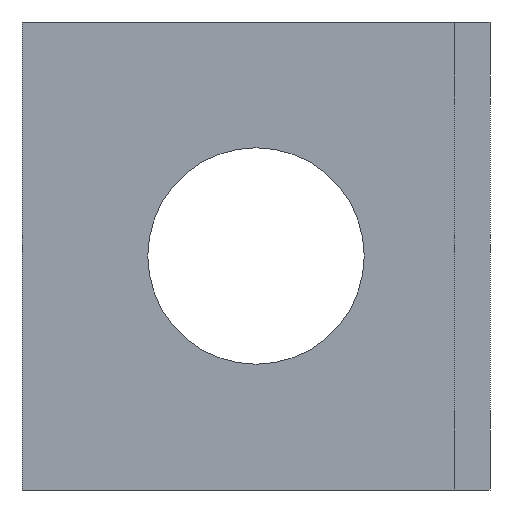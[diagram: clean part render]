
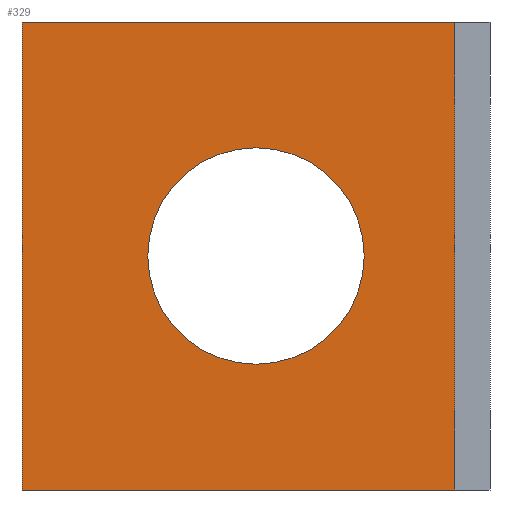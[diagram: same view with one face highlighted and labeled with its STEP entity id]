
A CAD part, left-side view. The second image highlights one B-rep face of the part: STEP entity #329.
In plain terms, the highlighted planar face has unit normal (-1, 0, 0).
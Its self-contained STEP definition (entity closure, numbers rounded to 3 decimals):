
#36=LINE('',#506,#74);
#43=LINE('',#519,#81);
#49=LINE('',#530,#87);
#50=LINE('',#532,#88);
#74=VECTOR('',#412,37.);
#81=VECTOR('',#423,37.);
#87=VECTOR('',#435,40.);
#88=VECTOR('',#438,40.);
#101=PLANE('',#355);
#105=FACE_BOUND('',#139,.T.);
#106=FACE_BOUND('',#140,.T.);
#139=EDGE_LOOP('',(#298));
#140=EDGE_LOOP('',(#299,#300,#301,#302));
#145=CIRCLE('',#337,9.25);
#151=VERTEX_POINT('',#448);
#172=VERTEX_POINT('',#503);
#173=VERTEX_POINT('',#505);
#176=VERTEX_POINT('',#516);
#177=VERTEX_POINT('',#518);
#181=EDGE_CURVE('',#151,#151,#145,.T.);
#208=EDGE_CURVE('',#172,#173,#36,.T.);
#215=EDGE_CURVE('',#176,#177,#43,.T.);
#221=EDGE_CURVE('',#176,#173,#49,.T.);
#222=EDGE_CURVE('',#177,#172,#50,.T.);
#298=ORIENTED_EDGE('',*,*,#181,.T.);
#299=ORIENTED_EDGE('',*,*,#221,.T.);
#300=ORIENTED_EDGE('',*,*,#208,.F.);
#301=ORIENTED_EDGE('',*,*,#222,.F.);
#302=ORIENTED_EDGE('',*,*,#215,.F.);
#329=ADVANCED_FACE('',(#105,#106),#101,.T.);
#337=AXIS2_PLACEMENT_3D('',#449,#364,#365);
#355=AXIS2_PLACEMENT_3D('',#531,#436,#437);
#364=DIRECTION('center_axis',(1.,0.,0.));
#365=DIRECTION('ref_axis',(0.,-1.,0.));
#412=DIRECTION('',(0.,-1.,0.));
#423=DIRECTION('',(0.,1.,0.));
#435=DIRECTION('',(0.,0.,1.));
#436=DIRECTION('center_axis',(-1.,0.,0.));
#437=DIRECTION('ref_axis',(0.,-1.,0.));
#438=DIRECTION('',(0.,0.,1.));
#448=CARTESIAN_POINT('',(-3.,10.75,0.));
#449=CARTESIAN_POINT('Origin',(-3.,20.,0.));
#503=CARTESIAN_POINT('',(-3.,40.,20.));
#505=CARTESIAN_POINT('',(-3.,3.,20.));
#506=CARTESIAN_POINT('',(-3.,40.,20.));
#516=CARTESIAN_POINT('',(-3.,3.,-20.));
#518=CARTESIAN_POINT('',(-3.,40.,-20.));
#519=CARTESIAN_POINT('',(-3.,40.,-20.));
#530=CARTESIAN_POINT('',(-3.,3.,0.));
#531=CARTESIAN_POINT('Origin',(-3.,40.,0.));
#532=CARTESIAN_POINT('',(-3.,40.,0.));
